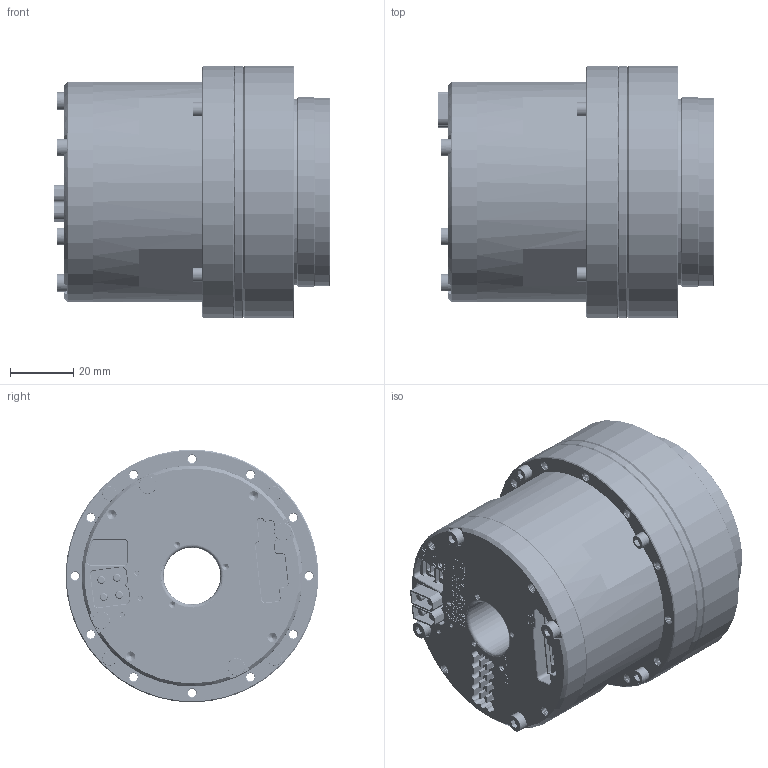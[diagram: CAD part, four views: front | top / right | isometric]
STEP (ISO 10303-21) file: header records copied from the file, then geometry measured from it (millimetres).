
FILE_DESCRIPTION (( 'STEP AP203' ), '1' );
FILE_NAME ('eRob80H｡ﾁ｡ﾁI-XX-18CX_V5_MC2D.DX.XX.step', '2024-05-21T10:24:13', ( 'Windows User' ), ( 'P R C' ), 'SwSTEP 2.0', 'SolidWorks 2021', '' );
FILE_SCHEMA (( 'CONFIG_CONTROL_DESIGN' ));
Length unit declared in the file: millimetre
Products named in the file (1): eRob80H××I-XX-18CX_V5_MC2D.DX.XX
Bounding box: 87.6 x 80 x 80 mm (x, y, z)
Volume: 315678 mm3; surface area: 46987.5 mm2
Topology: 1 solids, 1 shells, 4607 faces, 12582 edges, 8211 vertices
Faces by surface type: plane 2088, cylinder 1912, bspline 424, cone 131, torus 52
Entity records: 373683 total; most frequent: CARTESIAN_POINT 267578, ORIENTED_EDGE 25024, DIRECTION 18579, EDGE_CURVE 12512, VERTEX_POINT 8211, VECTOR 7327, LINE 7327, AXIS2_PLACEMENT_3D 5626
